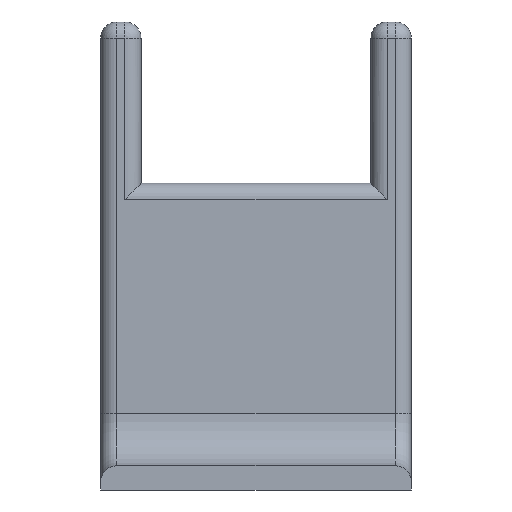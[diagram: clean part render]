
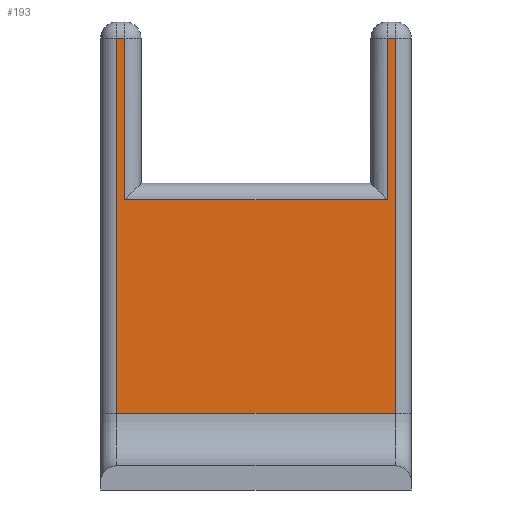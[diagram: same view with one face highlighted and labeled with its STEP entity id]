
A CAD part, front view. The second image highlights one B-rep face of the part: STEP entity #193.
In plain terms, the highlighted planar face has unit normal (0, -1, 0).
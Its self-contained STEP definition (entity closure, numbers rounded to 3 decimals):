
#193=ADVANCED_FACE('',(#789),#791,.T.);
#789=FACE_BOUND('',#790,.T.);
#790=EDGE_LOOP('',(#1222,#1223,#1224,#1225,#1226,#1227,#1228,#1229));
#791=PLANE('',#792);
#792=AXIS2_PLACEMENT_3D('',#793,#794,#795);
#793=CARTESIAN_POINT('',(-10.,-12.,0.));
#794=DIRECTION('',(0.,-1.,0.));
#795=DIRECTION('',(1.,0.,0.));
#1222=ORIENTED_EDGE('',*,*,#1492,.T.);
#1223=ORIENTED_EDGE('',*,*,#1493,.F.);
#1224=ORIENTED_EDGE('',*,*,#1494,.F.);
#1225=ORIENTED_EDGE('',*,*,#1495,.F.);
#1226=ORIENTED_EDGE('',*,*,#1496,.F.);
#1227=ORIENTED_EDGE('',*,*,#1497,.T.);
#1228=ORIENTED_EDGE('',*,*,#1498,.T.);
#1229=ORIENTED_EDGE('',*,*,#1499,.F.);
#1492=EDGE_CURVE('',#1690,#1691,#1692,.T.);
#1493=EDGE_CURVE('',#1693,#1691,#1694,.F.);
#1494=EDGE_CURVE('',#1695,#1693,#1696,.T.);
#1495=EDGE_CURVE('',#1697,#1695,#1698,.T.);
#1496=EDGE_CURVE('',#1699,#1697,#1700,.T.);
#1497=EDGE_CURVE('',#1699,#1701,#1702,.T.);
#1498=EDGE_CURVE('',#1701,#1703,#1704,.T.);
#1499=EDGE_CURVE('',#1690,#1703,#1705,.T.);
#1690=VERTEX_POINT('',#2134);
#1691=VERTEX_POINT('',#2135);
#1692=LINE('',#2136,#2137);
#1693=VERTEX_POINT('',#2139);
#1694=LINE('',#2140,#2141);
#1695=VERTEX_POINT('',#2143);
#1696=LINE('',#2144,#2145);
#1697=VERTEX_POINT('',#2147);
#1698=LINE('',#2148,#2149);
#1699=VERTEX_POINT('',#2151);
#1700=LINE('',#2152,#2153);
#1701=VERTEX_POINT('',#2155);
#1702=LINE('',#2156,#2157);
#1703=VERTEX_POINT('',#2159);
#1704=LINE('',#2160,#2161);
#1705=LINE('',#2163,#2164);
#2134=CARTESIAN_POINT('',(-6.,-12.,36.));
#2135=CARTESIAN_POINT('',(-6.,-12.,-57.));
#2136=CARTESIAN_POINT('',(-6.,-12.,36.));
#2137=VECTOR('',#2138,1.);
#2138=DIRECTION('',(0.,0.,-1.));
#2139=CARTESIAN_POINT('',(63.,-12.,-57.));
#2140=CARTESIAN_POINT('',(-6.,-12.,-57.));
#2141=VECTOR('',#2142,1.);
#2142=DIRECTION('',(1.,0.,0.));
#2143=CARTESIAN_POINT('',(63.,-12.,36.));
#2144=CARTESIAN_POINT('',(63.,-12.,36.));
#2145=VECTOR('',#2146,1.);
#2146=DIRECTION('',(0.,0.,-1.));
#2147=CARTESIAN_POINT('',(61.,-12.,36.));
#2148=CARTESIAN_POINT('',(61.,-12.,36.));
#2149=VECTOR('',#2150,1.);
#2150=DIRECTION('',(1.,0.,0.));
#2151=CARTESIAN_POINT('',(61.,-12.,-4.));
#2152=CARTESIAN_POINT('',(61.,-12.,-4.));
#2153=VECTOR('',#2154,1.);
#2154=DIRECTION('',(0.,0.,1.));
#2155=CARTESIAN_POINT('',(-4.,-12.,-4.));
#2156=CARTESIAN_POINT('',(61.,-12.,-4.));
#2157=VECTOR('',#2158,1.);
#2158=DIRECTION('',(-1.,0.,0.));
#2159=CARTESIAN_POINT('',(-4.,-12.,36.));
#2160=CARTESIAN_POINT('',(-4.,-12.,-4.));
#2161=VECTOR('',#2162,1.);
#2162=DIRECTION('',(0.,0.,1.));
#2163=CARTESIAN_POINT('',(-6.,-12.,36.));
#2164=VECTOR('',#2165,1.);
#2165=DIRECTION('',(1.,0.,0.));
